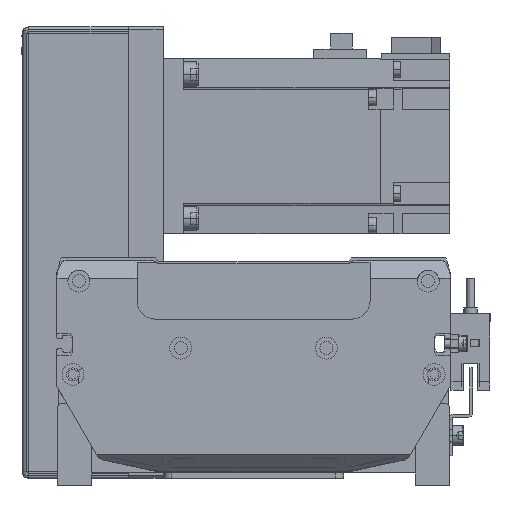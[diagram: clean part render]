
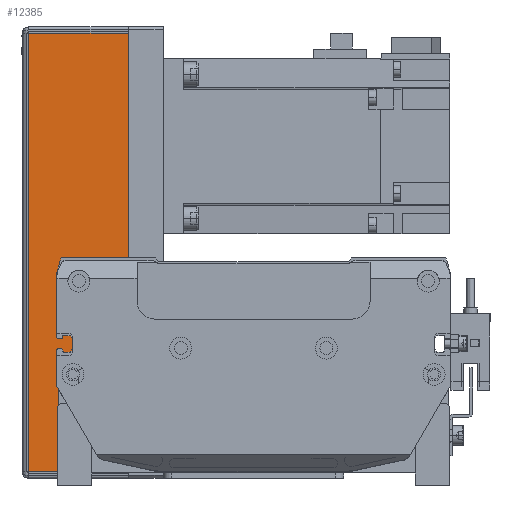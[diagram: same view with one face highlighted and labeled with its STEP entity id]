
A CAD part, front view. The second image highlights one B-rep face of the part: STEP entity #12385.
In plain terms, the highlighted planar face has unit normal (0, -1, 0).
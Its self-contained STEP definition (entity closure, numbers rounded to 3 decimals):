
#722 = LINE ( 'NONE', #18982, #9642 ) ;
#3283 = ORIENTED_EDGE ( 'NONE', *, *, #30977, .F. ) ;
#4935 = AXIS2_PLACEMENT_3D ( 'NONE', #39612, #9581, #32787 ) ;
#5374 = LINE ( 'NONE', #36691, #13203 ) ;
#5545 = DIRECTION ( 'NONE',  ( 0., 0., -1. ) ) ;
#5628 = VERTEX_POINT ( 'NONE', #14195 ) ;
#5822 = EDGE_LOOP ( 'NONE', ( #27607, #3283, #39846, #31708 ) ) ;
#6541 = VECTOR ( 'NONE', #13877, 1000. ) ;
#6913 = FACE_OUTER_BOUND ( 'NONE', #5822, .T. ) ;
#7265 = CARTESIAN_POINT ( 'NONE',  ( 115.793, -37., 34.263 ) ) ;
#9581 = DIRECTION ( 'NONE',  ( 0., 1., 0. ) ) ;
#9642 = VECTOR ( 'NONE', #5545, 1000. ) ;
#12385 = ADVANCED_FACE ( 'NONE', ( #6913 ), #22853, .F. ) ;
#13203 = VECTOR ( 'NONE', #33606, 1000. ) ;
#13522 = LINE ( 'NONE', #29150, #42227 ) ;
#13877 = DIRECTION ( 'NONE',  ( 0., 0., -1. ) ) ;
#14195 = CARTESIAN_POINT ( 'NONE',  ( -34.793, -37., 0. ) ) ;
#18982 = CARTESIAN_POINT ( 'NONE',  ( -34.793, -37., 36.5 ) ) ;
#19144 = VERTEX_POINT ( 'NONE', #20499 ) ;
#20471 = CARTESIAN_POINT ( 'NONE',  ( 115.793, -37., 35. ) ) ;
#20499 = CARTESIAN_POINT ( 'NONE',  ( 115.793, -37., 0. ) ) ;
#22598 = EDGE_CURVE ( 'NONE', #37208, #5628, #722, .T. ) ;
#22853 = PLANE ( 'NONE',  #4935 ) ;
#27607 = ORIENTED_EDGE ( 'NONE', *, *, #38409, .F. ) ;
#29150 = CARTESIAN_POINT ( 'NONE',  ( -162.166, -37., 0. ) ) ;
#30977 = EDGE_CURVE ( 'NONE', #37208, #36033, #5374, .T. ) ;
#31708 = ORIENTED_EDGE ( 'NONE', *, *, #42492, .T. ) ;
#32787 = DIRECTION ( 'NONE',  ( 0., 0., 1. ) ) ;
#33292 = CARTESIAN_POINT ( 'NONE',  ( -34.793, -37., 34.263 ) ) ;
#33606 = DIRECTION ( 'NONE',  ( 1., 0., 0. ) ) ;
#34190 = LINE ( 'NONE', #20471, #6541 ) ;
#36033 = VERTEX_POINT ( 'NONE', #7265 ) ;
#36691 = CARTESIAN_POINT ( 'NONE',  ( 118., -37., 34.263 ) ) ;
#37208 = VERTEX_POINT ( 'NONE', #33292 ) ;
#38409 = EDGE_CURVE ( 'NONE', #36033, #19144, #34190, .T. ) ;
#38909 = DIRECTION ( 'NONE',  ( 1., 0., 0. ) ) ;
#39612 = CARTESIAN_POINT ( 'NONE',  ( -162.166, -37., 36.5 ) ) ;
#39846 = ORIENTED_EDGE ( 'NONE', *, *, #22598, .T. ) ;
#42227 = VECTOR ( 'NONE', #38909, 1000. ) ;
#42492 = EDGE_CURVE ( 'NONE', #5628, #19144, #13522, .T. ) ;
